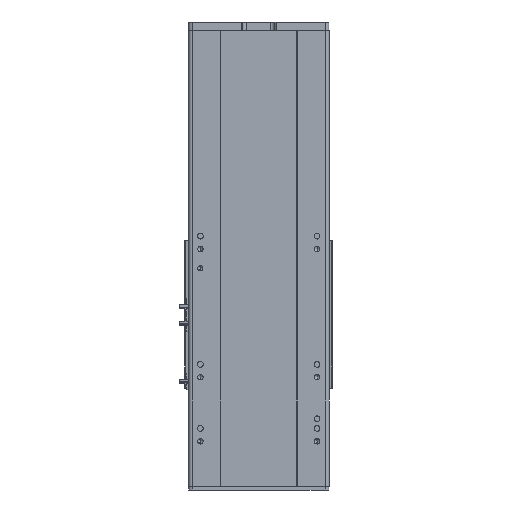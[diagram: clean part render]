
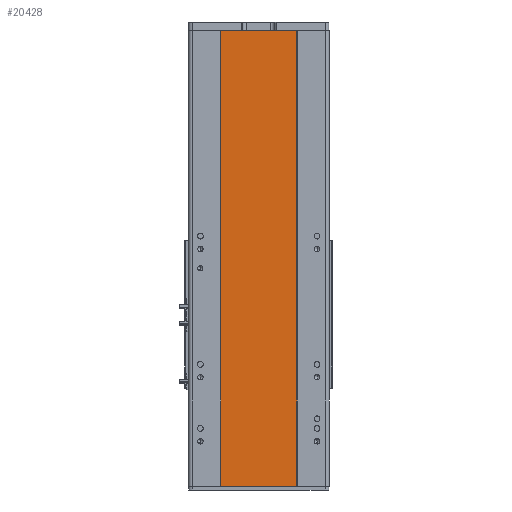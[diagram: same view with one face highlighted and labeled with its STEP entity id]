
A CAD part, front view. The second image highlights one B-rep face of the part: STEP entity #20428.
In plain terms, the highlighted planar face has unit normal (0, -1, 0).
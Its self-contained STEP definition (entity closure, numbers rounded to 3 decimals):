
#2072 = CARTESIAN_POINT ( 'NONE',  ( -59., 1., 355.5 ) ) ;
#3036 = VECTOR ( 'NONE', #17474, 1000. ) ;
#4876 = LINE ( 'NONE', #6733, #17468 ) ;
#6733 = CARTESIAN_POINT ( 'NONE',  ( -59., 1., -355.5 ) ) ;
#8446 = VERTEX_POINT ( 'NONE', #31267 ) ;
#9309 = DIRECTION ( 'NONE',  ( 1., 0., 0. ) ) ;
#11294 = LINE ( 'NONE', #33979, #3036 ) ;
#12239 = LINE ( 'NONE', #34210, #28613 ) ;
#12358 = VERTEX_POINT ( 'NONE', #33723 ) ;
#12525 = LINE ( 'NONE', #2072, #15112 ) ;
#13034 = DIRECTION ( 'NONE',  ( -1., 0., 0. ) ) ;
#14044 = EDGE_CURVE ( 'NONE', #28265, #12358, #12239, .T. ) ;
#14486 = EDGE_LOOP ( 'NONE', ( #16279, #33843, #23063, #15801 ) ) ;
#14937 = DIRECTION ( 'NONE',  ( 0., 0., -1. ) ) ;
#15065 = CARTESIAN_POINT ( 'NONE',  ( -59., 1., -355.5 ) ) ;
#15112 = VECTOR ( 'NONE', #29827, 1000. ) ;
#15801 = ORIENTED_EDGE ( 'NONE', *, *, #30556, .T. ) ;
#16157 = CARTESIAN_POINT ( 'NONE',  ( -59., 1., 355.5 ) ) ;
#16279 = ORIENTED_EDGE ( 'NONE', *, *, #20182, .T. ) ;
#17468 = VECTOR ( 'NONE', #9309, 1000. ) ;
#17474 = DIRECTION ( 'NONE',  ( 1., 0., 0. ) ) ;
#20182 = EDGE_CURVE ( 'NONE', #22146, #12358, #4876, .T. ) ;
#20428 = ADVANCED_FACE ( 'NONE', ( #28479 ), #29532, .F. ) ;
#22146 = VERTEX_POINT ( 'NONE', #15065 ) ;
#23063 = ORIENTED_EDGE ( 'NONE', *, *, #27107, .F. ) ;
#27107 = EDGE_CURVE ( 'NONE', #8446, #28265, #11294, .T. ) ;
#27757 = CARTESIAN_POINT ( 'NONE',  ( 59., 1., 355.5 ) ) ;
#27940 = AXIS2_PLACEMENT_3D ( 'NONE', #16157, #34955, #13034 ) ;
#28265 = VERTEX_POINT ( 'NONE', #27757 ) ;
#28479 = FACE_OUTER_BOUND ( 'NONE', #14486, .T. ) ;
#28613 = VECTOR ( 'NONE', #14937, 1000. ) ;
#29532 = PLANE ( 'NONE',  #27940 ) ;
#29827 = DIRECTION ( 'NONE',  ( 0., 0., -1. ) ) ;
#30556 = EDGE_CURVE ( 'NONE', #8446, #22146, #12525, .T. ) ;
#31267 = CARTESIAN_POINT ( 'NONE',  ( -59., 1., 355.5 ) ) ;
#33723 = CARTESIAN_POINT ( 'NONE',  ( 59., 1., -355.5 ) ) ;
#33843 = ORIENTED_EDGE ( 'NONE', *, *, #14044, .F. ) ;
#33979 = CARTESIAN_POINT ( 'NONE',  ( -59., 1., 355.5 ) ) ;
#34210 = CARTESIAN_POINT ( 'NONE',  ( 59., 1., 355.5 ) ) ;
#34955 = DIRECTION ( 'NONE',  ( 0., 1., 0. ) ) ;
